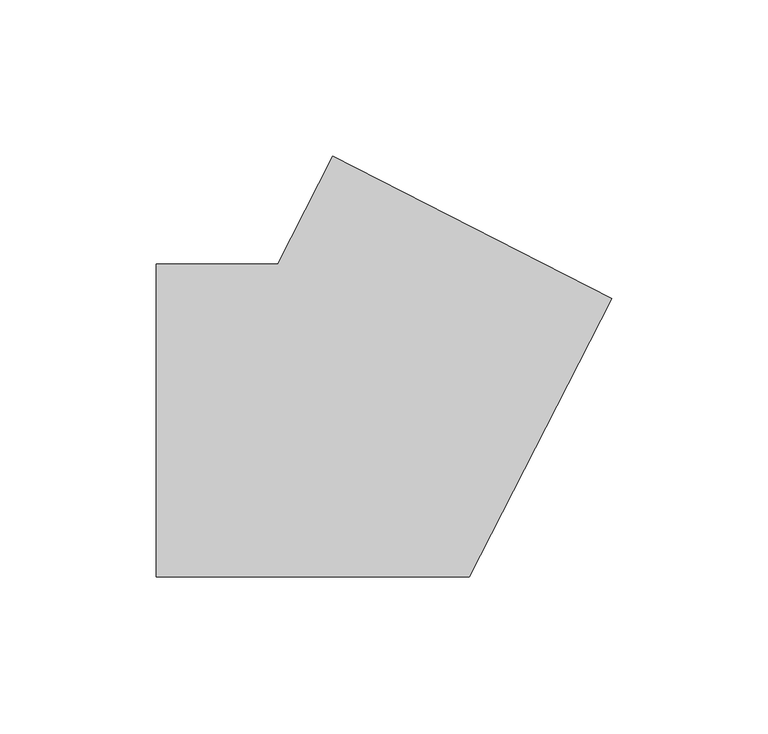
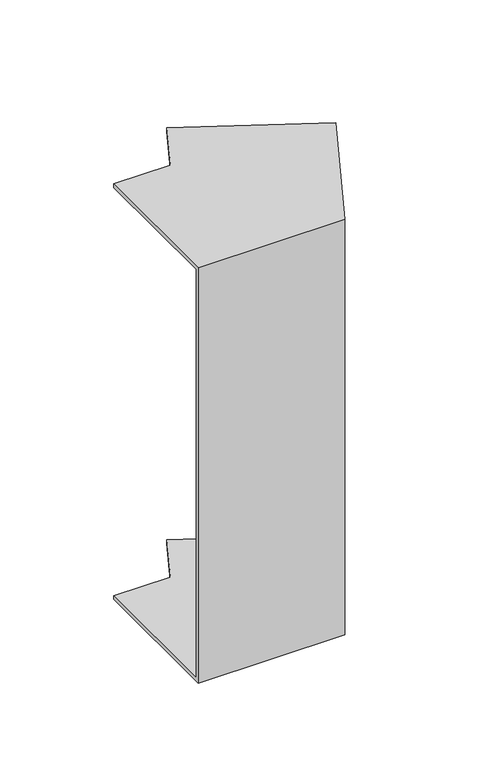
"""IFC4 building model written with IfcOpenShell, lengths in millimetres: cable carrier fitting geometry, ADSK_Поворот вертикальный внутренний_Минимальный размер : Неперфорированный."""

import ifcopenshell
import ifcopenshell.guid

model = None  # the IFC model being written
_history = None  # IfcOwnerHistory: only IFC2X3 demands one
_inside = {}  # id of a spatial element -> (the spatial element, [elements in it])
_under = {}  # id of a project, library or spatial element -> (it, [spatial elements below it])
_declared = {}  # id of a project -> (the project, [libraries it declares])
_typed = {}  # id of a type object -> (the type object, [elements of that type])
_made_of = {}  # id of a material, layer set ... -> (it, [elements and type objects made of it])


def new_model(schema):
    """Start an empty IFC model of exactly this schema.

    Asked for "IFC4X3", IfcOpenShell would pick the latest addendum, in which some entities
    have other attributes; the version numbers below select the first issue.
    IFC2X3 requires an IfcOwnerHistory on every rooted entity: one is made here for all.
    """
    global model, _history
    if schema == "IFC4X3":
        model = ifcopenshell.file(schema_version=(4, 3, 0, 0))
    else:
        model = ifcopenshell.file(schema=schema)
    _inside.clear()
    _under.clear()
    _declared.clear()
    _typed.clear()
    _made_of.clear()
    _history = None
    if model.schema == "IFC2X3":
        org = make("IfcOrganization", Name="unknown")
        user = make(
            "IfcPersonAndOrganization",
            ThePerson=make("IfcPerson", FamilyName="unknown"),
            TheOrganization=org,
        )
        app = make(
            "IfcApplication",
            ApplicationDeveloper=org,
            Version="unknown",
            ApplicationFullName="unknown",
            ApplicationIdentifier="unknown",
        )
        _history = make(
            "IfcOwnerHistory",
            OwningUser=user,
            OwningApplication=app,
            ChangeAction="ADDED",
            CreationDate=0,
        )
    return model


def make(cls, **values):
    """One entity of the class cls with the attributes given. An attribute that is None is left unset."""
    return model.create_entity(
        cls, **{name: value for name, value in values.items() if value is not None}
    )


def rooted(cls, **values):
    """An entity with a GlobalId (a new one), such as an element, a storey or a relation."""
    return make(cls, GlobalId=ifcopenshell.guid.new(), OwnerHistory=_history, **values)


def si_unit(unit_type, name, prefix=None):
    """IfcSIUnit, for example si_unit("LENGTHUNIT", "METRE", prefix="MILLI")."""
    return make("IfcSIUnit", UnitType=unit_type, Prefix=prefix, Name=name)


def assignment(units):
    """IfcUnitAssignment: the units of a project."""
    return None if units is None else make("IfcUnitAssignment", Units=units)


def point(xyz):
    """IfcCartesianPoint."""
    return None if xyz is None else make("IfcCartesianPoint", Coordinates=xyz)


def direction(xyz):
    """IfcDirection."""
    return None if xyz is None else make("IfcDirection", DirectionRatios=xyz)


def frame(location, z_axis=None, x_axis=None):
    """IfcAxis2Placement3D, a coordinate frame: its origin and axes. An axis left out is left unset."""
    return make(
        "IfcAxis2Placement3D",
        Location=point(location),
        Axis=direction(z_axis),
        RefDirection=direction(x_axis),
    )


def origin():
    """The frame at (0, 0, 0) with its axes left unset."""
    return frame((0.0, 0.0, 0.0))


def place(relative_to, where):
    """IfcLocalPlacement: puts the frame where relative to a parent placement (None: the world)."""
    return make(
        "IfcLocalPlacement", PlacementRelTo=relative_to, RelativePlacement=where
    )


def context(
    kind, dimensions, precision=None, world=None, true_north=None, identifier=None
):
    """IfcGeometricRepresentationContext, for example the 3D "Model" context."""
    return make(
        "IfcGeometricRepresentationContext",
        ContextIdentifier=identifier,
        ContextType=kind,
        CoordinateSpaceDimension=dimensions,
        Precision=precision,
        WorldCoordinateSystem=world,
        TrueNorth=true_north,
    )


def project(units=None, contexts=None):
    """IfcProject with its units and contexts."""
    return rooted(
        "IfcProject",
        Name="project",
        RepresentationContexts=contexts,
        UnitsInContext=assignment(units),
    )


def spatial(cls, under=None, at=None, **own):
    """A site, building, storey or space (cls), placed at a placement, below another one or the project."""
    s = rooted(cls, ObjectPlacement=at, **own)
    if under is not None:
        _under.setdefault(under.id(), (under, []))[1].append(s)
    return s


def faces_of(points, faces, orient=None, outer=None):
    """IfcFace entities. A face is a list of loops; a loop is a list of indices into points, from 0.

    orient and outer hold one flag for each loop. By default every Orientation is true, the
    first loop of a face is its IfcFaceOuterBound and the others are IfcFaceBound.
    """
    made = []
    for i, loops in enumerate(faces):
        bounds = []
        for j, loop in enumerate(loops):
            is_outer = j == 0 if outer is None else outer[i][j]
            bounds.append(
                make(
                    "IfcFaceOuterBound" if is_outer else "IfcFaceBound",
                    Bound=make("IfcPolyLoop", Polygon=[points[k] for k in loop]),
                    Orientation=True if orient is None else orient[i][j],
                )
            )
        made.append(make("IfcFace", Bounds=bounds))
    return made


def faceted_brep(points, faces, orient=None, outer=None, voids=None):
    """IfcFacetedBrep: a solid bounded by flat faces; with voids (closed shells), ...WithVoids."""
    shared = [point(p) for p in points]
    hull = make("IfcClosedShell", CfsFaces=faces_of(shared, faces, orient, outer))
    if voids is None:
        return make("IfcFacetedBrep", Outer=hull)
    return make(
        "IfcFacetedBrepWithVoids",
        Outer=hull,
        Voids=[
            make(cls, CfsFaces=faces_of(shared, fs, o, b)) for cls, fs, o, b in voids
        ],
    )


def shape(context_of_items, identifier, shape_type, items):
    """IfcShapeRepresentation: the items that make up one representation, for example the "Body"."""
    return make(
        "IfcShapeRepresentation",
        ContextOfItems=context_of_items,
        RepresentationIdentifier=identifier,
        RepresentationType=shape_type,
        Items=items,
    )


def source(mapping_origin, context_of_items, identifier, shape_type, items):
    """IfcRepresentationMap: a shape defined once, which mapped items show again and again."""
    return make(
        "IfcRepresentationMap",
        MappingOrigin=mapping_origin,
        MappedRepresentation=shape(context_of_items, identifier, shape_type, items),
    )


def transform(
    local_origin,
    x_axis=None,
    y_axis=None,
    z_axis=None,
    scale=None,
    scale2=None,
    scale3=None,
    uniform=True,
):
    """IfcCartesianTransformationOperator3D, or its non-uniform kind. x_axis, y_axis, z_axis: its Axis1, 2, 3."""
    if uniform:
        return make(
            "IfcCartesianTransformationOperator3D",
            Axis1=direction(x_axis),
            Axis2=direction(y_axis),
            LocalOrigin=point(local_origin),
            Scale=scale,
            Axis3=direction(z_axis),
        )
    return make(
        "IfcCartesianTransformationOperator3DnonUniform",
        Axis1=direction(x_axis),
        Axis2=direction(y_axis),
        LocalOrigin=point(local_origin),
        Scale=scale,
        Axis3=direction(z_axis),
        Scale2=scale2,
        Scale3=scale3,
    )


def mapped(mapping_source, mapping_target):
    """IfcMappedItem: shows the shape of a source again, moved by a transform."""
    return make(
        "IfcMappedItem", MappingSource=mapping_source, MappingTarget=mapping_target
    )


def made_of(thing, what):
    """Note that an element or type object is made of a material, layer set ...; save() writes the relation."""
    if what is not None:
        _made_of.setdefault(what.id(), (what, []))[1].append(thing)
    return thing


def element(
    cls,
    number,
    at=None,
    inside=None,
    cuts=None,
    type_object=None,
    material=None,
    context=None,
    identifier="Body",
    shape_type=None,
    held_by="IfcProductDefinitionShape",
    body=None,
    shapes=None,
    **own,
):
    """One element of the class cls, such as IfcWall. Its Tag is "e" and its number.

    at: its placement. inside: the storey or other place that contains it. cuts: it is an
    opening in that element (IfcRelVoidsElement). A single representation is given by context,
    identifier, shape_type and body (its items); several are given by shapes. held_by: the class
    of the entity that holds the representations. save() writes the other relations.
    """
    e = rooted(cls, Tag="e%d" % number, ObjectPlacement=at, **own)
    if body is not None:
        shapes = [shape(context, identifier, shape_type, body)]
    if shapes is not None:
        e.Representation = make(held_by, Representations=shapes)
    if inside is not None:
        _inside.setdefault(inside.id(), (inside, []))[1].append(e)
    if cuts is not None:
        rooted(
            "IfcRelVoidsElement", RelatingBuildingElement=cuts, RelatedOpeningElement=e
        )
    if type_object is not None:
        _typed.setdefault(type_object.id(), (type_object, []))[1].append(e)
    return made_of(e, material)


def aggregate(whole, parts):
    """IfcRelAggregates: a whole, such as a stair, and the parts it consists of."""
    return rooted("IfcRelAggregates", RelatingObject=whole, RelatedObjects=parts)


def save(model, path):
    """Write the relations noted so far, then the file.

    IfcRelAggregates (storeys below a building ...), IfcRelContainedInSpatialStructure (elements
    in a storey), IfcRelDefinesByType, IfcRelAssociatesMaterial and IfcRelDeclares: one each for
    every whole, place, type object, material and project.
    """
    for whole, parts in _under.values():
        aggregate(whole, parts)
    for where, things in _inside.values():
        rooted(
            "IfcRelContainedInSpatialStructure",
            RelatedElements=things,
            RelatingStructure=where,
        )
    for kind, things in _typed.values():
        rooted("IfcRelDefinesByType", RelatedObjects=things, RelatingType=kind)
    for what, things in _made_of.values():
        rooted("IfcRelAssociatesMaterial", RelatedObjects=things, RelatingMaterial=what)
    for by, libraries in _declared.values():
        rooted("IfcRelDeclares", RelatingContext=by, RelatedDefinitions=libraries)
    model.write(path)


def cable_carrier_fitting_767802be(model_context):
    return source(origin(), model_context, "Body", "Brep", [
        faceted_brep([(-69.3440828, -50.0, 150.0), (-69.3440828, 50.0, 150.0), (-69.3440828, 50.0, 147.46), (-69.3440828, -47.46, 147.46), (-69.3440828, -47.46, -147.46), (-69.3440828, 50.0, -147.46), (-69.3440828, 50.0, -150.0), (-69.3440828, -50.0, -150.0), (76.031881, 39.0865052, 150.0), (76.031881, 39.0865052, -150.0), (-13.0687714, 84.4855551, -150.0), (-13.0687714, 84.4855551, -147.46), (73.7687244, 40.239641, -147.46), (73.7687244, 40.239641, 147.46), (-13.0687714, 84.4855551, 147.46), (-13.0687714, 84.4855551, 150.0), (30.6400394, -50.0, 150.0), (-30.6400394, 50.0, 150.0), (-30.6400394, 50.0, 147.46), (29.0835254, -47.46, 147.46), (29.0835254, -47.46, -147.46), (-30.6400394, 50.0, -147.46), (-30.6400394, 50.0, -150.0), (30.6400394, -50.0, -150.0)], [[[0, 1, 2, 3, 4, 5, 6, 7]], [[8, 9, 10, 11, 12, 13, 14, 15]], [[1, 0, 16, 8, 15, 17]], [[2, 1, 17, 18]], [[3, 2, 18, 14, 13, 19]], [[4, 3, 19, 20]], [[5, 4, 20, 12, 11, 21]], [[6, 5, 21, 22]], [[7, 6, 22, 10, 9, 23]], [[0, 7, 23, 16]], [[18, 17, 15, 14]], [[20, 19, 13, 12]], [[22, 21, 11, 10]], [[16, 23, 9, 8]]]),
    ])


if __name__ == "__main__":
    model = new_model("IFC4")
    model_context = context("Model", 3, world=origin())
    ifc_project = project(units=[si_unit("LENGTHUNIT", "METRE", prefix="MILLI")], contexts=[model_context])
    site = spatial("IfcSite", under=ifc_project)
    building = spatial("IfcBuilding", under=site)
    placement = place(None, origin())
    cable_carrier_fitting_shape = cable_carrier_fitting_767802be(model_context)
    element("IfcCableCarrierFitting", 1, ObjectType="ADSK_Поворот вертикальный внутренний_Минимальный размер : Неперфорированный", at=placement, inside=building, context=model_context, shape_type="MappedRepresentation", body=[
        mapped(cable_carrier_fitting_shape, transform((0.0, 0.0, 0.0), x_axis=(1.0, 0.0, 0.0), y_axis=(0.0, 1.0, 0.0), z_axis=(0.0, 0.0, 1.0))),
    ])
    save(model, "model.ifc")
